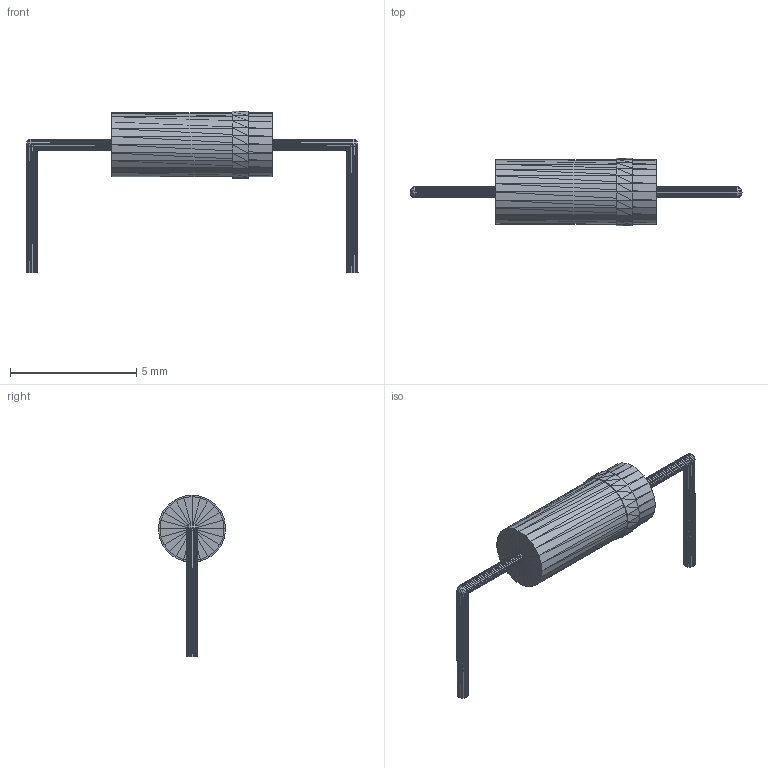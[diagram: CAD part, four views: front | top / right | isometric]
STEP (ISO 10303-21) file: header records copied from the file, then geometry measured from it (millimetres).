
FILE_DESCRIPTION(('HOOPS Exchange Step'),'2;1');
FILE_NAME('***.stp');
FILE_SCHEMA( ('AP242_MANAGED_MODEL_BASED_3D_ENGINEERING_MIM_LF {1 0 10303 442 1 1 4 }') );
Length unit declared in the file: inch
Products named in the file (8): DO-7_2; DO-7_3; DO-7_4; DO-7_5; DO-7_6; DO-7_7; DO-7_8; DO-7
Assembly tree (7 placements, depth 2):
  DO-7
    DO-7_2
    DO-7_3
    DO-7_4
    DO-7_5
    DO-7_6
    DO-7_7
    DO-7_8
Bounding box: 13.15 x 2.67 x 6.41 mm (x, y, z)
Volume: 38.9 mm3; surface area: 110.9 mm2
Topology: 7 solids, 7 shells, 1056 faces, 1584 edges, 542 vertices
Faces by surface type: plane 1056
Entity records: 20963 total; most frequent: DIRECTION 3728, CARTESIAN_POINT 3198, ORIENTED_EDGE 3168, VECTOR 1584, LINE 1584, EDGE_CURVE 1584, AXIS2_PLACEMENT_3D 1072, PLANE 1056
